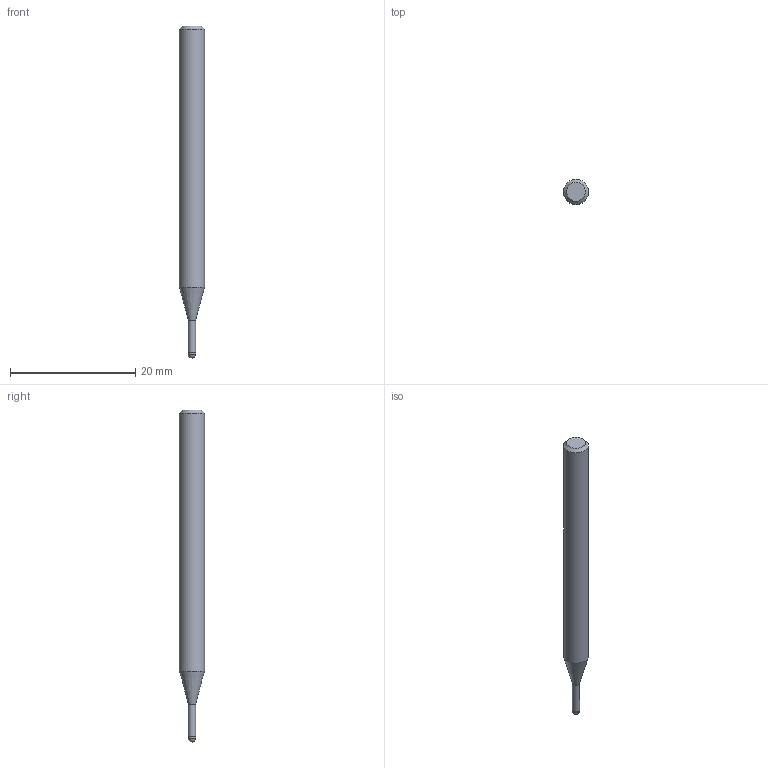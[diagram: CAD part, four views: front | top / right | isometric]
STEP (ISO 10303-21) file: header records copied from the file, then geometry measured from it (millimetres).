
FILE_DESCRIPTION((''),'2;1');
FILE_NAME('C:\Users\nsx150\AppData\Local\Temp\Mastercam 2021\LJSIDMOTM8\TEMP.step','2021-08-03T14:24:09',(''),(''),'STEP Write','Mastercam 2021 ... CNC Software, Inc.','');
FILE_SCHEMA(('AUTOMOTIVE_DESIGN'));
Length unit declared in the file: millimetre
Products named in the file (1): None
Bounding box: 4 x 4 x 53 mm (x, y, z)
Volume: 559 mm3; surface area: 600.9 mm2
Topology: 2 solids, 2 shells, 9 faces, 14 edges, 8 vertices
Faces by surface type: plane 3, cylinder 3, cone 2, sphere 1
Full cylindrical faces by diameter (mm): 1.15 x1, 1.2 x1, 4 x1
Entity records: 211 total; most frequent: DIRECTION 36, CARTESIAN_POINT 25, AXIS2_PLACEMENT_3D 18, ORIENTED_EDGE 14, EDGE_LOOP 14, STYLED_ITEM 12, ADVANCED_FACE 9, FACE_BOUND 8
